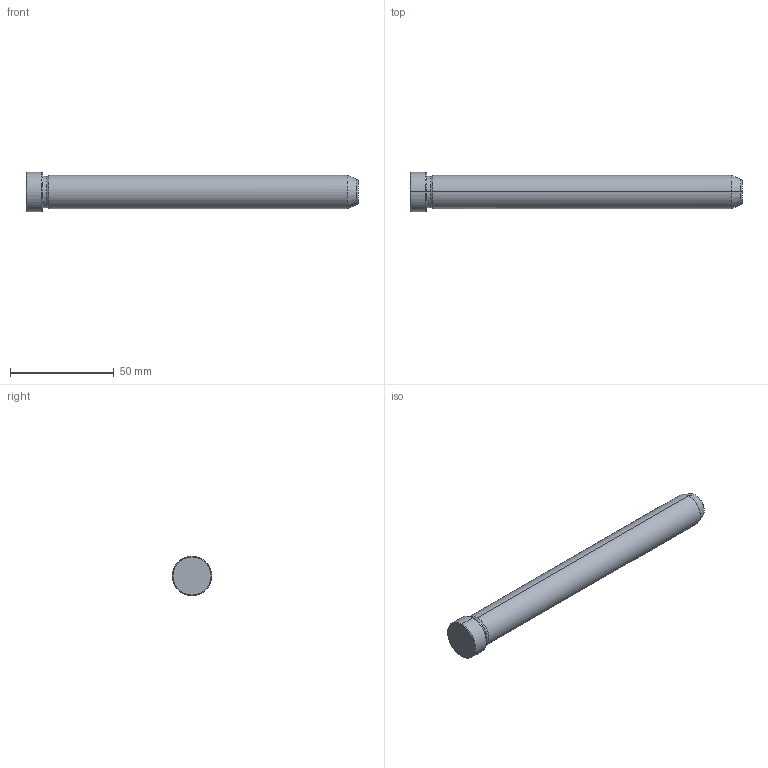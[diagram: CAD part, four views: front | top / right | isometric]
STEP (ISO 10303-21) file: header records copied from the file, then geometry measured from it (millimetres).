
FILE_DESCRIPTION(('CATIA V5 STEP Exchange'),'2;1');
FILE_NAME('C:\Users\Utente\Desktop\IO LAVORO\3D X SITO CF\X SITO\PLASTICA\549\549-16X160.stp','2021-12-11T09:31:34+00:00',('none'),('none'),'CATIA Version 5 Release 20 GA (IN-10)','CATIA V5 STEP AP203','none');
FILE_SCHEMA(('CONFIG_CONTROL_DESIGN'));
Length unit declared in the file: millimetre
Products named in the file (1): 549-16X160
Bounding box: 160 x 19 x 19 mm (x, y, z)
Volume: 32529.5 mm3; surface area: 8577.4 mm2
Topology: 1 solids, 1 shells, 19 faces, 56 edges, 40 vertices
Faces by surface type: cone 8, cylinder 6, plane 3, torus 2
Entity records: 736 total; most frequent: CARTESIAN_POINT 192, ORIENTED_EDGE 112, DIRECTION 86, EDGE_CURVE 56, AXIS2_PLACEMENT_3D 54, VERTEX_POINT 40, CIRCLE 34, EDGE_LOOP 20
